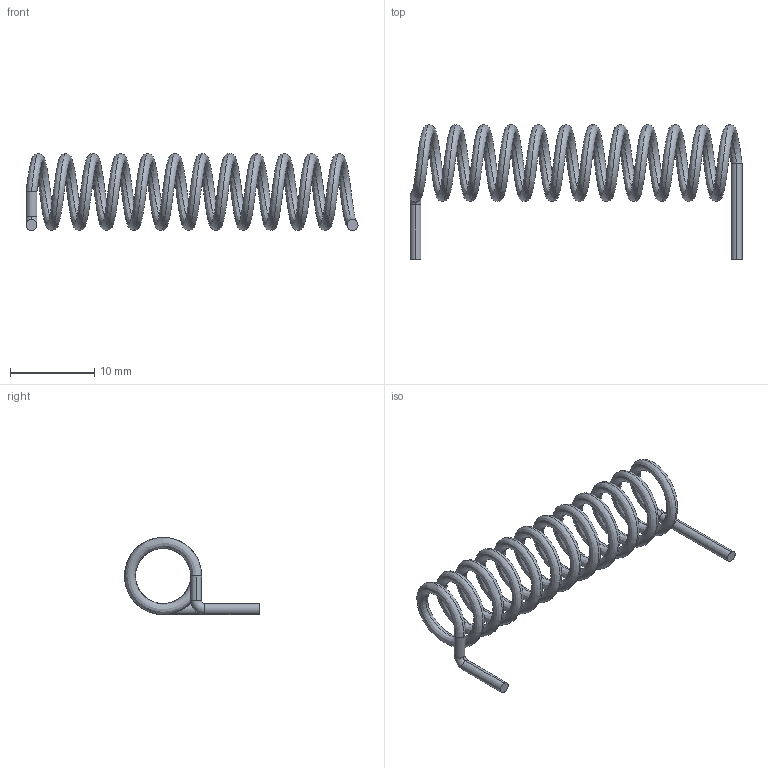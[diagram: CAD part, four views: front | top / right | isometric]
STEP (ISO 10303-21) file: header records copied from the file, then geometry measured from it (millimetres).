
FILE_DESCRIPTION (( 'STEP AP214' ), '1' );
FILE_NAME ('ANT-418-HESM.STEP', '2020-10-26T15:25:53', ( '' ), ( '' ), 'SwSTEP 2.0', 'SolidWorks 2017', '' );
FILE_SCHEMA (( 'AUTOMOTIVE_DESIGN' ));
Length unit declared in the file: inch
Products named in the file (1): ANT-418-HESM
Bounding box: 39.39 x 16 x 9.14 mm (x, y, z)
Volume: 408.2 mm3; surface area: 1273.2 mm2
Topology: 1 solids, 1 shells, 12 faces, 26 edges, 16 vertices
Faces by surface type: cylinder 6, torus 2, bspline 2, plane 2
Entity records: 4886 total; most frequent: CARTESIAN_POINT 4579, DIRECTION 64, ORIENTED_EDGE 52, AXIS2_PLACEMENT_3D 29, EDGE_CURVE 26, CIRCLE 18, VERTEX_POINT 16, FACE_OUTER_BOUND 12
